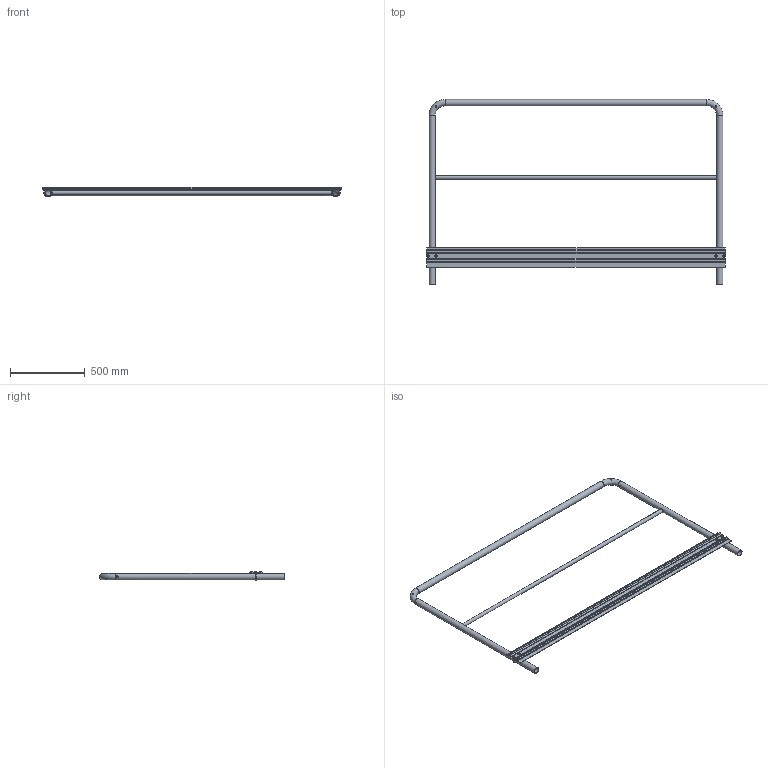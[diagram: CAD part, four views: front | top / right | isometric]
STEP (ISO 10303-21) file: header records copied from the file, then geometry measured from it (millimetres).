
FILE_DESCRIPTION((''),'2;1');
FILE_NAME('S:\Användarkataloger\AndreasA\Mina Inventor filer\Räcken\STEP\modul_ind_slist_2000-1216.stp','2010-09-07T13:17:14',('AndreasA'),(''),'Autodesk Inventor 2011','Autodesk Inventor 2011','');
FILE_SCHEMA(('AUTOMOTIVE_DESIGN { 1 0 10303 214 1 1 1 1 }'));
Length unit declared in the file: millimetre
Products named in the file (9): modul_ind_slist_2000-1216; modul_ind_2000-1216; handledare_modul_2000-1216; mellanliggare_modul_2000; sparklist_k130_modul_2000; bygelskruv_U42_kpl; bygelskruv_U42; SS 3576 8; ISO 4032 M8
Assembly tree (11 placements, depth 3):
  modul_ind_slist_2000-1216
    modul_ind_2000-1216
      handledare_modul_2000-1216
      mellanliggare_modul_2000
    sparklist_k130_modul_2000
    bygelskruv_U42_kpl  x2
      bygelskruv_U42
      SS 3576 8
      ISO 4032 M8
Bounding box: 1996 x 1237.2 x 64.99 mm (x, y, z)
Volume: 2101657.9 mm3; surface area: 1963075.5 mm2
Topology: 13 solids, 13 shells, 148 faces, 350 edges, 224 vertices
Faces by surface type: plane 66, cylinder 52, cone 24, torus 6
Full cylindrical faces by diameter (mm): 6.647 x4, 7 x4, 8 x4, 8.4 x4, 10 x4, 11 x8, 16 x4, 21 x1, 25 x1, 38.4 x3, 42.4 x3
Entity records: 3275 total; most frequent: CARTESIAN_POINT 1136, DIRECTION 414, ORIENTED_EDGE 324, AXIS2_PLACEMENT_3D 174, EDGE_CURVE 162, EDGE_LOOP 158, VERTEX_POINT 128, FACE_OUTER_BOUND 86
